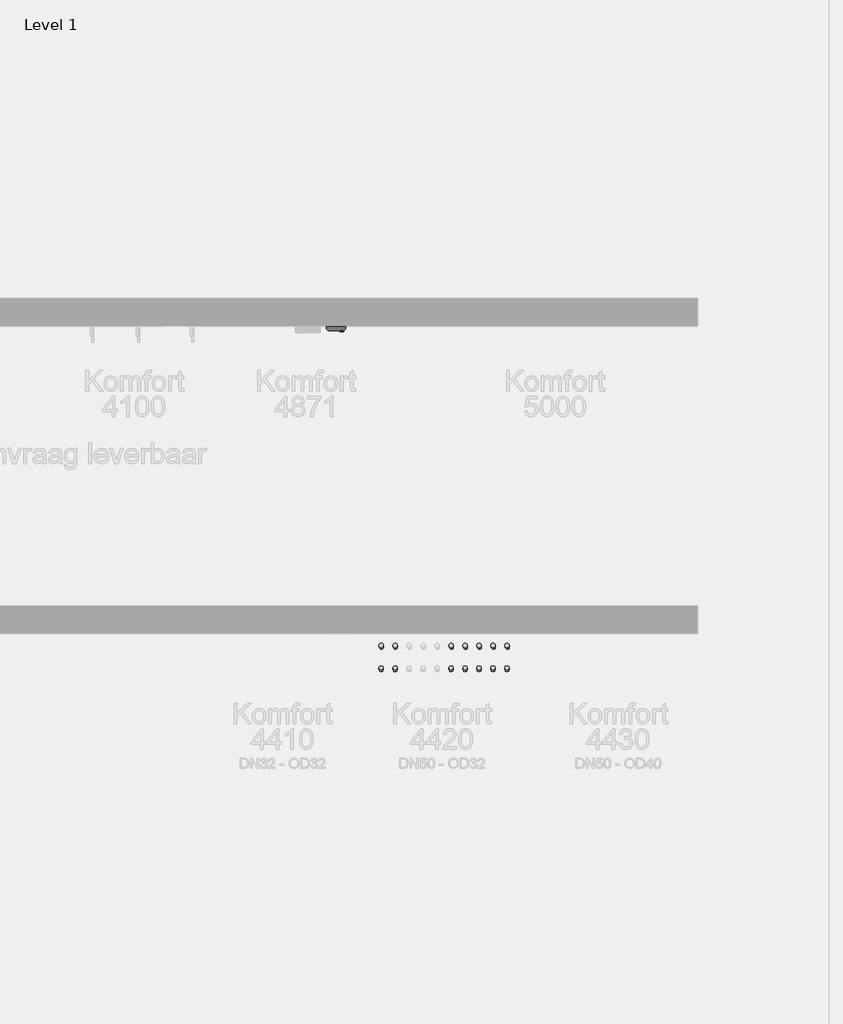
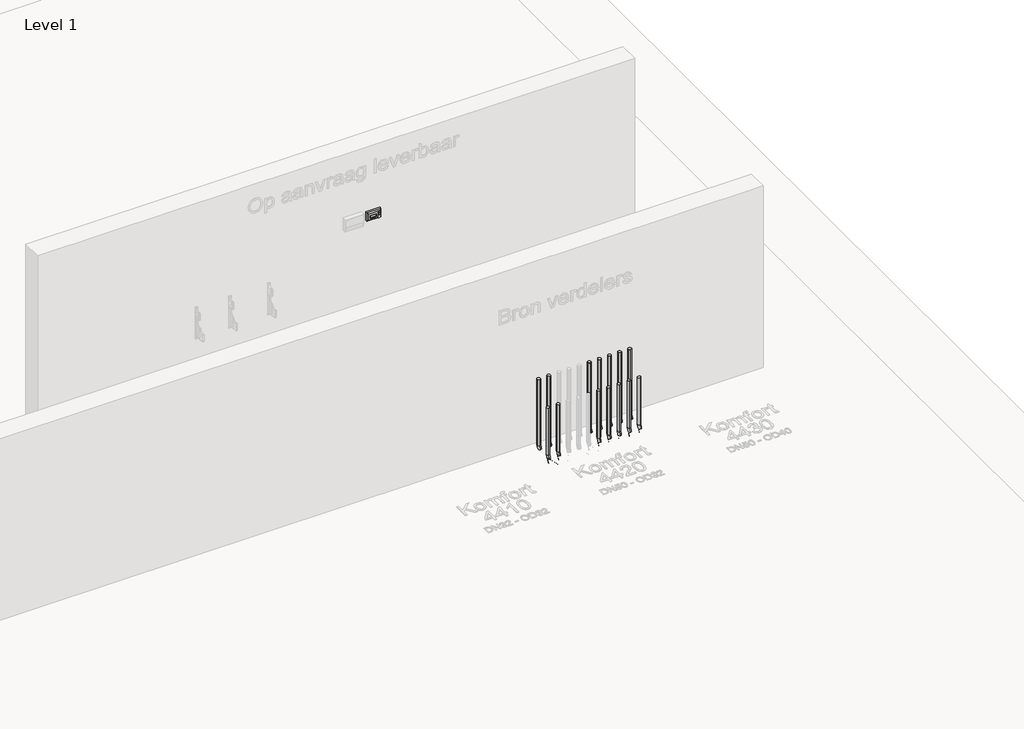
# One storey, part 9 of 34: 34 pipe segments, 21 pipe fittings, 1 proxy.
"""IFC4 building model written with IfcOpenShell, lengths in millimetres."""

from ifc_helpers import new_model, si_unit, point, frame, frame_2d, origin, place, context, project, spatial, circle_curve, trimmed, segment, composite_curve, outline, extrude, transform, mapped, element, save
from components import electrical_fixtures_cdb00edd, curved_elbow_default_c54697c8, curved_elbow_default_545ca236

model = new_model("IFC4")

# Units and contexts
model_context = context("Model", 3, world=origin())
ifc_project = project(units=[si_unit("LENGTHUNIT", "METRE", prefix="MILLI")], contexts=[model_context])

# Site, building, storey
site = spatial("IfcSite", under=ifc_project)
building = spatial("IfcBuilding", under=site)
storey = spatial("IfcBuildingStorey", under=building, Name="Level 1", Elevation=0.0)

# Proxy
placement = place(None, origin())
electrical_fixtures_shape = electrical_fixtures_cdb00edd(model_context)
element("IfcBuildingElementProxy", 1, Name="400_5-_KOMF_optimizer_bediening : Optimizer bediening", ObjectType="400_5-_KOMF_optimizer_bediening : Optimizer bediening", at=placement, inside=storey, context=model_context, shape_type="MappedRepresentation", body=[
    mapped(electrical_fixtures_shape, transform((138.4044363, 9789.9863889, 1136.6455638), x_axis=(1.0, 0.0, 0.0), y_axis=(0.0, 0.0, 1.0), z_axis=(0.0, -1.0, 0.0))),
])

# Pipe fittings
curved_elbow_default_shape = curved_elbow_default_c54697c8(model_context)
element("IfcPipeFitting", 2, ObjectType="curved_Elbow : Default", at=placement, inside=storey, context=model_context, shape_type="MappedRepresentation", body=[
    mapped(curved_elbow_default_shape, transform((1431.1365526, 7507.9863889, -60.0), x_axis=(0.0, 0.0, -1.0), y_axis=(0.2079116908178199, -0.9781476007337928, 0.0), z_axis=(-0.9781476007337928, -0.2079116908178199, 0.0))),
])
element("IfcPipeFitting", 3, ObjectType="curved_Elbow : Default", at=placement, inside=storey, context=model_context, shape_type="MappedRepresentation", body=[
    mapped(curved_elbow_default_shape, transform((1431.1365526, 7347.9863889, -60.0), x_axis=(0.0, 0.0, -1.0), y_axis=(0.0, -1.0, 0.0), z_axis=(-1.0, 0.0, 0.0))),
])
element("IfcPipeFitting", 4, ObjectType="curved_Elbow : Default", at=placement, inside=storey, context=model_context, shape_type="MappedRepresentation", body=[
    mapped(curved_elbow_default_shape, transform((1331.1365526, 7507.9863889, -60.0), x_axis=(0.0, 0.0, -1.0), y_axis=(0.20791169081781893, -0.9781476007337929, 0.0), z_axis=(-0.9781476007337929, -0.20791169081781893, 0.0))),
])
element("IfcPipeFitting", 5, ObjectType="curved_Elbow : Default", at=placement, inside=storey, context=model_context, shape_type="MappedRepresentation", body=[
    mapped(curved_elbow_default_shape, transform((1331.1365526, 7347.9863889, -60.0), x_axis=(0.0, 0.0, -1.0), y_axis=(0.0, -1.0, 0.0), z_axis=(-1.0, 0.0, 0.0))),
])
element("IfcPipeFitting", 6, ObjectType="curved_Elbow : Default", at=placement, inside=storey, context=model_context, shape_type="MappedRepresentation", body=[
    mapped(curved_elbow_default_shape, transform((1231.1365526, 7507.9863889, -60.0), x_axis=(0.0, 0.0, -1.0), y_axis=(0.20791169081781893, -0.9781476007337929, 0.0), z_axis=(-0.9781476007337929, -0.20791169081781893, 0.0))),
])
element("IfcPipeFitting", 7, ObjectType="curved_Elbow : Default", at=placement, inside=storey, context=model_context, shape_type="MappedRepresentation", body=[
    mapped(curved_elbow_default_shape, transform((1231.1365526, 7347.9863889, -60.0), x_axis=(0.0, 0.0, -1.0), y_axis=(0.0, -1.0, 0.0), z_axis=(-1.0, 0.0, 0.0))),
])
element("IfcPipeFitting", 8, ObjectType="curved_Elbow : Default", at=placement, inside=storey, context=model_context, shape_type="MappedRepresentation", body=[
    mapped(curved_elbow_default_shape, transform((1131.1365526, 7507.9863889, -60.0), x_axis=(0.0, 0.0, -1.0), y_axis=(0.207911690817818, -0.9781476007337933, 0.0), z_axis=(-0.9781476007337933, -0.207911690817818, 0.0))),
])
element("IfcPipeFitting", 9, ObjectType="curved_Elbow : Default", at=placement, inside=storey, context=model_context, shape_type="MappedRepresentation", body=[
    mapped(curved_elbow_default_shape, transform((1131.1365526, 7347.9863889, -60.0), x_axis=(0.0, 0.0, -1.0), y_axis=(0.0, -1.0, 0.0), z_axis=(-1.0, 0.0, 0.0))),
])
element("IfcPipeFitting", 10, ObjectType="curved_Elbow : Default", at=placement, inside=storey, context=model_context, shape_type="MappedRepresentation", body=[
    mapped(curved_elbow_default_shape, transform((1031.1365526, 7507.9863889, -60.0), x_axis=(0.0, 0.0, -1.0), y_axis=(0.20791169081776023, -0.9781476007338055, 0.0), z_axis=(-0.9781476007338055, -0.20791169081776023, 0.0))),
])
element("IfcPipeFitting", 11, ObjectType="curved_Elbow : Default", at=placement, inside=storey, context=model_context, shape_type="MappedRepresentation", body=[
    mapped(curved_elbow_default_shape, transform((1031.1365526, 7347.9863889, -60.0), x_axis=(0.0, 0.0, -1.0), y_axis=(0.0, -1.0, 0.0), z_axis=(-1.0, 0.0, 0.0))),
])
element("IfcPipeFitting", 12, ObjectType="curved_Elbow : Default", at=placement, inside=storey, context=model_context, shape_type="MappedRepresentation", body=[
    mapped(curved_elbow_default_shape, transform((631.1365526, 7507.9863889, -60.0), x_axis=(0.0, 0.0, -1.0), y_axis=(0.2079116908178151, -0.9781476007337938, 0.0), z_axis=(-0.9781476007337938, -0.2079116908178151, 0.0))),
])
element("IfcPipeFitting", 13, ObjectType="curved_Elbow : Default", at=placement, inside=storey, context=model_context, shape_type="MappedRepresentation", body=[
    mapped(curved_elbow_default_shape, transform((631.1365526, 7347.9863889, -60.0), x_axis=(0.0, 0.0, -1.0), y_axis=(0.0, -1.0, 0.0), z_axis=(-1.0, 0.0, 0.0))),
])
element("IfcPipeFitting", 14, ObjectType="curved_Elbow : Default", at=placement, inside=storey, context=model_context, shape_type="MappedRepresentation", body=[
    mapped(curved_elbow_default_shape, transform((531.1365526, 7507.9863889, -60.0), x_axis=(0.0, 0.0, -1.0), y_axis=(0.2079116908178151, -0.9781476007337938, 0.0), z_axis=(-0.9781476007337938, -0.2079116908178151, 0.0))),
])
element("IfcPipeFitting", 15, ObjectType="curved_Elbow : Default", at=placement, inside=storey, context=model_context, shape_type="MappedRepresentation", body=[
    mapped(curved_elbow_default_shape, transform((531.1365526, 7347.9863889, -60.0), x_axis=(0.0, 0.0, -1.0), y_axis=(0.0, -1.0, 0.0), z_axis=(-1.0, 0.0, 0.0))),
])
curved_elbow_default_2_shape = curved_elbow_default_545ca236(model_context)
element("IfcPipeFitting", 16, ObjectType="curved_Elbow : Default", at=placement, inside=storey, context=model_context, shape_type="MappedRepresentation", body=[
    mapped(curved_elbow_default_2_shape, transform((1481.1365526, 7272.7548834, -60.0), x_axis=(0.0, 1.0, 0.0), y_axis=(-1.0, 0.0, 0.0), z_axis=(0.0, 0.0, 1.0))),
])
element("IfcPipeFitting", 17, ObjectType="curved_Elbow : Default", at=placement, inside=storey, context=model_context, shape_type="MappedRepresentation", body=[
    mapped(curved_elbow_default_2_shape, transform((1381.1365526, 7272.7548834, -60.0), x_axis=(0.0, 1.0, 0.0), y_axis=(-1.0, 0.0, 0.0), z_axis=(0.0, 0.0, 1.0))),
])
element("IfcPipeFitting", 18, ObjectType="curved_Elbow : Default", at=placement, inside=storey, context=model_context, shape_type="MappedRepresentation", body=[
    mapped(curved_elbow_default_2_shape, transform((1281.1365526, 7272.7548834, -60.0), x_axis=(0.0, 1.0, 0.0), y_axis=(-1.0, 0.0, 0.0), z_axis=(0.0, 0.0, 1.0))),
])
element("IfcPipeFitting", 19, ObjectType="curved_Elbow : Default", at=placement, inside=storey, context=model_context, shape_type="MappedRepresentation", body=[
    mapped(curved_elbow_default_2_shape, transform((1181.1365526, 7272.7548834, -60.0), x_axis=(0.0, 1.0, 0.0), y_axis=(-1.0, 0.0, 0.0), z_axis=(0.0, 0.0, 1.0))),
])
element("IfcPipeFitting", 20, ObjectType="curved_Elbow : Default", at=placement, inside=storey, context=model_context, shape_type="MappedRepresentation", body=[
    mapped(curved_elbow_default_2_shape, transform((1081.1365526, 7272.7548834, -60.0), x_axis=(0.0, 1.0, 0.0), y_axis=(-1.0, 0.0, 0.0), z_axis=(0.0, 0.0, 1.0))),
])
element("IfcPipeFitting", 21, ObjectType="curved_Elbow : Default", at=placement, inside=storey, context=model_context, shape_type="MappedRepresentation", body=[
    mapped(curved_elbow_default_2_shape, transform((681.1365526, 7272.7548834, -60.0), x_axis=(0.0, 1.0, 0.0), y_axis=(-1.0, 0.0, 0.0), z_axis=(0.0, 0.0, 1.0))),
])
element("IfcPipeFitting", 22, ObjectType="curved_Elbow : Default", at=placement, inside=storey, context=model_context, shape_type="MappedRepresentation", body=[
    mapped(curved_elbow_default_2_shape, transform((581.1365526, 7272.7548834, -60.0), x_axis=(0.0, 1.0, 0.0), y_axis=(-1.0, 0.0, 0.0), z_axis=(0.0, 0.0, 1.0))),
])

# Pipe segments
element("IfcPipeSegment", 23, ObjectType="PE", at=placement, inside=storey, context=model_context, shape_type="SweptSolid", body=[
    extrude(outline(composite_curve([segment(trimmed(circle_curve(frame_2d((0.0, -16.0)), 16.0), [point((-16.0, -16.0))], [point((0.0, 0.0))], False, "CARTESIAN"), True, "CONTINUOUS"), segment(trimmed(circle_curve(frame_2d((0.0, -16.0)), 16.0), [point((0.0, 0.0))], [point((16.0, -16.0))], False, "CARTESIAN"), True, "CONTINUOUS"), segment(trimmed(circle_curve(frame_2d((0.0, -16.0)), 16.0), [point((16.0, -16.0))], [point((0.0, -32.0))], False, "CARTESIAN"), True, "CONTINUOUS"), segment(trimmed(circle_curve(frame_2d((0.0, -16.0)), 16.0), [point((0.0, -32.0))], [point((-16.0, -16.0))], False, "CARTESIAN"), True, "CONTINUOUS")], self_intersect=False)), frame((1479.0605747, 7282.5215917, -76.0), z_axis=(-0.20791169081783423, 0.9781476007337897, 0.0), x_axis=(0.9781476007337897, 0.20791169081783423, 0.0)), (0.0, 0.0, 1.0), 135.5018149),
])
element("IfcPipeSegment", 24, ObjectType="PE", at=placement, inside=storey, context=model_context, shape_type="SweptSolid", body=[
    extrude(outline(composite_curve([segment(trimmed(circle_curve(frame_2d((-60.0, 1481.1365526)), 16.0), [point((-60.0, 1497.1365526))], [point((-44.0, 1481.1365526))], False, "CARTESIAN"), True, "CONTINUOUS"), segment(trimmed(circle_curve(frame_2d((-60.0, 1481.1365526)), 16.0), [point((-44.0, 1481.1365526))], [point((-60.0, 1465.1365526))], False, "CARTESIAN"), True, "CONTINUOUS"), segment(trimmed(circle_curve(frame_2d((-60.0, 1481.1365526)), 16.0), [point((-60.0, 1465.1365526))], [point((-76.0, 1481.1365526))], False, "CARTESIAN"), True, "CONTINUOUS"), segment(trimmed(circle_curve(frame_2d((-60.0, 1481.1365526)), 16.0), [point((-76.0, 1481.1365526))], [point((-60.0, 1497.1365526))], False, "CARTESIAN"), True, "CONTINUOUS")], self_intersect=False)), frame((0.0, 7133.7372351, 0.0), z_axis=(0.0, 1.0, 0.0), x_axis=(0.0, 0.0, 1.0)), (0.0, 0.0, 1.0), 129.0327459),
])
element("IfcPipeSegment", 25, ObjectType="PE", at=placement, inside=storey, context=model_context, shape_type="SweptSolid", body=[
    extrude(outline(composite_curve([segment(trimmed(circle_curve(frame_2d((1431.1365526, 7507.9863889)), 16.0), [point((1447.1365526, 7507.9863889))], [point((1431.1365526, 7491.9863889))], False, "CARTESIAN"), True, "CONTINUOUS"), segment(trimmed(circle_curve(frame_2d((1431.1365526, 7507.9863889)), 16.0), [point((1431.1365526, 7491.9863889))], [point((1415.1365526, 7507.9863889))], False, "CARTESIAN"), True, "CONTINUOUS"), segment(trimmed(circle_curve(frame_2d((1431.1365526, 7507.9863889)), 16.0), [point((1415.1365526, 7507.9863889))], [point((1431.1365526, 7523.9863889))], False, "CARTESIAN"), True, "CONTINUOUS"), segment(trimmed(circle_curve(frame_2d((1431.1365526, 7507.9863889)), 16.0), [point((1431.1365526, 7523.9863889))], [point((1447.1365526, 7507.9863889))], False, "CARTESIAN"), True, "CONTINUOUS")], self_intersect=False)), frame((0.0, 0.0, 35.0), z_axis=(0.0, 0.0, 1.0), x_axis=(1.0, 0.0, 0.0)), (0.0, 0.0, 1.0), 691.7267081),
])
element("IfcPipeSegment", 26, ObjectType="PE", at=placement, inside=storey, context=model_context, shape_type="SweptSolid", body=[
    extrude(outline(composite_curve([segment(trimmed(circle_curve(frame_2d((-60.0, 1431.1365526)), 16.0), [point((-60.0, 1415.1365526))], [point((-76.0, 1431.1365526))], False, "CARTESIAN"), True, "CONTINUOUS"), segment(trimmed(circle_curve(frame_2d((-60.0, 1431.1365526)), 16.0), [point((-76.0, 1431.1365526))], [point((-60.0, 1447.1365526))], False, "CARTESIAN"), True, "CONTINUOUS"), segment(trimmed(circle_curve(frame_2d((-60.0, 1431.1365526)), 16.0), [point((-60.0, 1447.1365526))], [point((-44.0, 1431.1365526))], False, "CARTESIAN"), True, "CONTINUOUS"), segment(trimmed(circle_curve(frame_2d((-60.0, 1431.1365526)), 16.0), [point((-44.0, 1431.1365526))], [point((-60.0, 1415.1365526))], False, "CARTESIAN"), True, "CONTINUOUS")], self_intersect=False)), frame((0.0, 7133.7372351, 0.0), z_axis=(0.0, 1.0, 0.0), x_axis=(0.0, 0.0, 1.0)), (0.0, 0.0, 1.0), 119.2491538),
])
element("IfcPipeSegment", 27, ObjectType="PE", at=placement, inside=storey, context=model_context, shape_type="SweptSolid", body=[
    extrude(outline(composite_curve([segment(trimmed(circle_curve(frame_2d((1431.1365526, 7347.9863889)), 16.0), [point((1447.1365526, 7347.9863889))], [point((1431.1365526, 7331.9863889))], False, "CARTESIAN"), True, "CONTINUOUS"), segment(trimmed(circle_curve(frame_2d((1431.1365526, 7347.9863889)), 16.0), [point((1431.1365526, 7331.9863889))], [point((1415.1365526, 7347.9863889))], False, "CARTESIAN"), True, "CONTINUOUS"), segment(trimmed(circle_curve(frame_2d((1431.1365526, 7347.9863889)), 16.0), [point((1415.1365526, 7347.9863889))], [point((1431.1365526, 7363.9863889))], False, "CARTESIAN"), True, "CONTINUOUS"), segment(trimmed(circle_curve(frame_2d((1431.1365526, 7347.9863889)), 16.0), [point((1431.1365526, 7363.9863889))], [point((1447.1365526, 7347.9863889))], False, "CARTESIAN"), True, "CONTINUOUS")], self_intersect=False)), frame((0.0, 0.0, 35.0), z_axis=(0.0, 0.0, 1.0), x_axis=(1.0, 0.0, 0.0)), (0.0, 0.0, 1.0), 491.7981366),
])
element("IfcPipeSegment", 28, ObjectType="PE", at=placement, inside=storey, context=model_context, shape_type="SweptSolid", body=[
    extrude(outline(composite_curve([segment(trimmed(circle_curve(frame_2d((0.0, -16.0)), 16.0), [point((-16.0, -16.0))], [point((0.0, 0.0))], False, "CARTESIAN"), True, "CONTINUOUS"), segment(trimmed(circle_curve(frame_2d((0.0, -16.0)), 16.0), [point((0.0, 0.0))], [point((16.0, -16.0))], False, "CARTESIAN"), True, "CONTINUOUS"), segment(trimmed(circle_curve(frame_2d((0.0, -16.0)), 16.0), [point((16.0, -16.0))], [point((0.0, -32.0))], False, "CARTESIAN"), True, "CONTINUOUS"), segment(trimmed(circle_curve(frame_2d((0.0, -16.0)), 16.0), [point((0.0, -32.0))], [point((-16.0, -16.0))], False, "CARTESIAN"), True, "CONTINUOUS")], self_intersect=False)), frame((1379.0605747, 7282.5215917, -76.0), z_axis=(-0.20791169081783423, 0.9781476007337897, 0.0), x_axis=(0.9781476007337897, 0.20791169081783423, 0.0)), (0.0, 0.0, 1.0), 135.5018149),
])
element("IfcPipeSegment", 29, ObjectType="PE", at=placement, inside=storey, context=model_context, shape_type="SweptSolid", body=[
    extrude(outline(composite_curve([segment(trimmed(circle_curve(frame_2d((-60.0, 1381.1365526)), 16.0), [point((-60.0, 1397.1365526))], [point((-44.0, 1381.1365526))], False, "CARTESIAN"), True, "CONTINUOUS"), segment(trimmed(circle_curve(frame_2d((-60.0, 1381.1365526)), 16.0), [point((-44.0, 1381.1365526))], [point((-60.0, 1365.1365526))], False, "CARTESIAN"), True, "CONTINUOUS"), segment(trimmed(circle_curve(frame_2d((-60.0, 1381.1365526)), 16.0), [point((-60.0, 1365.1365526))], [point((-76.0, 1381.1365526))], False, "CARTESIAN"), True, "CONTINUOUS"), segment(trimmed(circle_curve(frame_2d((-60.0, 1381.1365526)), 16.0), [point((-76.0, 1381.1365526))], [point((-60.0, 1397.1365526))], False, "CARTESIAN"), True, "CONTINUOUS")], self_intersect=False)), frame((0.0, 7133.7372351, 0.0), z_axis=(0.0, 1.0, 0.0), x_axis=(0.0, 0.0, 1.0)), (0.0, 0.0, 1.0), 129.0327459),
])
element("IfcPipeSegment", 30, ObjectType="PE", at=placement, inside=storey, context=model_context, shape_type="SweptSolid", body=[
    extrude(outline(composite_curve([segment(trimmed(circle_curve(frame_2d((1331.1365526, 7507.9863889)), 16.0), [point((1347.1365526, 7507.9863889))], [point((1331.1365526, 7491.9863889))], False, "CARTESIAN"), True, "CONTINUOUS"), segment(trimmed(circle_curve(frame_2d((1331.1365526, 7507.9863889)), 16.0), [point((1331.1365526, 7491.9863889))], [point((1315.1365526, 7507.9863889))], False, "CARTESIAN"), True, "CONTINUOUS"), segment(trimmed(circle_curve(frame_2d((1331.1365526, 7507.9863889)), 16.0), [point((1315.1365526, 7507.9863889))], [point((1331.1365526, 7523.9863889))], False, "CARTESIAN"), True, "CONTINUOUS"), segment(trimmed(circle_curve(frame_2d((1331.1365526, 7507.9863889)), 16.0), [point((1331.1365526, 7523.9863889))], [point((1347.1365526, 7507.9863889))], False, "CARTESIAN"), True, "CONTINUOUS")], self_intersect=False)), frame((0.0, 0.0, 35.0), z_axis=(0.0, 0.0, 1.0), x_axis=(1.0, 0.0, 0.0)), (0.0, 0.0, 1.0), 691.7267081),
])
element("IfcPipeSegment", 31, ObjectType="PE", at=placement, inside=storey, context=model_context, shape_type="SweptSolid", body=[
    extrude(outline(composite_curve([segment(trimmed(circle_curve(frame_2d((-60.0, 1331.1365526)), 16.0), [point((-60.0, 1315.1365526))], [point((-76.0, 1331.1365526))], False, "CARTESIAN"), True, "CONTINUOUS"), segment(trimmed(circle_curve(frame_2d((-60.0, 1331.1365526)), 16.0), [point((-76.0, 1331.1365526))], [point((-60.0, 1347.1365526))], False, "CARTESIAN"), True, "CONTINUOUS"), segment(trimmed(circle_curve(frame_2d((-60.0, 1331.1365526)), 16.0), [point((-60.0, 1347.1365526))], [point((-44.0, 1331.1365526))], False, "CARTESIAN"), True, "CONTINUOUS"), segment(trimmed(circle_curve(frame_2d((-60.0, 1331.1365526)), 16.0), [point((-44.0, 1331.1365526))], [point((-60.0, 1315.1365526))], False, "CARTESIAN"), True, "CONTINUOUS")], self_intersect=False)), frame((0.0, 7133.7372351, 0.0), z_axis=(0.0, 1.0, 0.0), x_axis=(0.0, 0.0, 1.0)), (0.0, 0.0, 1.0), 119.2491538),
])
element("IfcPipeSegment", 32, ObjectType="PE", at=placement, inside=storey, context=model_context, shape_type="SweptSolid", body=[
    extrude(outline(composite_curve([segment(trimmed(circle_curve(frame_2d((1331.1365526, 7347.9863889)), 16.0), [point((1347.1365526, 7347.9863889))], [point((1331.1365526, 7331.9863889))], False, "CARTESIAN"), True, "CONTINUOUS"), segment(trimmed(circle_curve(frame_2d((1331.1365526, 7347.9863889)), 16.0), [point((1331.1365526, 7331.9863889))], [point((1315.1365526, 7347.9863889))], False, "CARTESIAN"), True, "CONTINUOUS"), segment(trimmed(circle_curve(frame_2d((1331.1365526, 7347.9863889)), 16.0), [point((1315.1365526, 7347.9863889))], [point((1331.1365526, 7363.9863889))], False, "CARTESIAN"), True, "CONTINUOUS"), segment(trimmed(circle_curve(frame_2d((1331.1365526, 7347.9863889)), 16.0), [point((1331.1365526, 7363.9863889))], [point((1347.1365526, 7347.9863889))], False, "CARTESIAN"), True, "CONTINUOUS")], self_intersect=False)), frame((0.0, 0.0, 35.0), z_axis=(0.0, 0.0, 1.0), x_axis=(1.0, 0.0, 0.0)), (0.0, 0.0, 1.0), 491.7981366),
])
element("IfcPipeSegment", 33, ObjectType="PE", at=placement, inside=storey, context=model_context, shape_type="SweptSolid", body=[
    extrude(outline(composite_curve([segment(trimmed(circle_curve(frame_2d((0.0, -16.0)), 16.0), [point((-16.0, -16.0))], [point((0.0, 0.0))], False, "CARTESIAN"), True, "CONTINUOUS"), segment(trimmed(circle_curve(frame_2d((0.0, -16.0)), 16.0), [point((0.0, 0.0))], [point((16.0, -16.0))], False, "CARTESIAN"), True, "CONTINUOUS"), segment(trimmed(circle_curve(frame_2d((0.0, -16.0)), 16.0), [point((16.0, -16.0))], [point((0.0, -32.0))], False, "CARTESIAN"), True, "CONTINUOUS"), segment(trimmed(circle_curve(frame_2d((0.0, -16.0)), 16.0), [point((0.0, -32.0))], [point((-16.0, -16.0))], False, "CARTESIAN"), True, "CONTINUOUS")], self_intersect=False)), frame((1279.0605747, 7282.5215917, -76.0), z_axis=(-0.20791169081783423, 0.9781476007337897, 0.0), x_axis=(0.9781476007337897, 0.20791169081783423, 0.0)), (0.0, 0.0, 1.0), 135.5018149),
])
element("IfcPipeSegment", 34, ObjectType="PE", at=placement, inside=storey, context=model_context, shape_type="SweptSolid", body=[
    extrude(outline(composite_curve([segment(trimmed(circle_curve(frame_2d((-60.0, 1281.1365526)), 16.0), [point((-60.0, 1297.1365526))], [point((-44.0, 1281.1365526))], False, "CARTESIAN"), True, "CONTINUOUS"), segment(trimmed(circle_curve(frame_2d((-60.0, 1281.1365526)), 16.0), [point((-44.0, 1281.1365526))], [point((-60.0, 1265.1365526))], False, "CARTESIAN"), True, "CONTINUOUS"), segment(trimmed(circle_curve(frame_2d((-60.0, 1281.1365526)), 16.0), [point((-60.0, 1265.1365526))], [point((-76.0, 1281.1365526))], False, "CARTESIAN"), True, "CONTINUOUS"), segment(trimmed(circle_curve(frame_2d((-60.0, 1281.1365526)), 16.0), [point((-76.0, 1281.1365526))], [point((-60.0, 1297.1365526))], False, "CARTESIAN"), True, "CONTINUOUS")], self_intersect=False)), frame((0.0, 7133.7372351, 0.0), z_axis=(0.0, 1.0, 0.0), x_axis=(0.0, 0.0, 1.0)), (0.0, 0.0, 1.0), 129.0327459),
])
element("IfcPipeSegment", 35, ObjectType="PE", at=placement, inside=storey, context=model_context, shape_type="SweptSolid", body=[
    extrude(outline(composite_curve([segment(trimmed(circle_curve(frame_2d((1231.1365526, 7507.9863889)), 16.0), [point((1247.1365526, 7507.9863889))], [point((1231.1365526, 7491.9863889))], False, "CARTESIAN"), True, "CONTINUOUS"), segment(trimmed(circle_curve(frame_2d((1231.1365526, 7507.9863889)), 16.0), [point((1231.1365526, 7491.9863889))], [point((1215.1365526, 7507.9863889))], False, "CARTESIAN"), True, "CONTINUOUS"), segment(trimmed(circle_curve(frame_2d((1231.1365526, 7507.9863889)), 16.0), [point((1215.1365526, 7507.9863889))], [point((1231.1365526, 7523.9863889))], False, "CARTESIAN"), True, "CONTINUOUS"), segment(trimmed(circle_curve(frame_2d((1231.1365526, 7507.9863889)), 16.0), [point((1231.1365526, 7523.9863889))], [point((1247.1365526, 7507.9863889))], False, "CARTESIAN"), True, "CONTINUOUS")], self_intersect=False)), frame((0.0, 0.0, 35.0), z_axis=(0.0, 0.0, 1.0), x_axis=(1.0, 0.0, 0.0)), (0.0, 0.0, 1.0), 691.7267081),
])
element("IfcPipeSegment", 36, ObjectType="PE", at=placement, inside=storey, context=model_context, shape_type="SweptSolid", body=[
    extrude(outline(composite_curve([segment(trimmed(circle_curve(frame_2d((-60.0, 1231.1365526)), 16.0), [point((-60.0, 1215.1365526))], [point((-76.0, 1231.1365526))], False, "CARTESIAN"), True, "CONTINUOUS"), segment(trimmed(circle_curve(frame_2d((-60.0, 1231.1365526)), 16.0), [point((-76.0, 1231.1365526))], [point((-60.0, 1247.1365526))], False, "CARTESIAN"), True, "CONTINUOUS"), segment(trimmed(circle_curve(frame_2d((-60.0, 1231.1365526)), 16.0), [point((-60.0, 1247.1365526))], [point((-44.0, 1231.1365526))], False, "CARTESIAN"), True, "CONTINUOUS"), segment(trimmed(circle_curve(frame_2d((-60.0, 1231.1365526)), 16.0), [point((-44.0, 1231.1365526))], [point((-60.0, 1215.1365526))], False, "CARTESIAN"), True, "CONTINUOUS")], self_intersect=False)), frame((0.0, 7133.7372351, 0.0), z_axis=(0.0, 1.0, 0.0), x_axis=(0.0, 0.0, 1.0)), (0.0, 0.0, 1.0), 119.2491538),
])
element("IfcPipeSegment", 37, ObjectType="PE", at=placement, inside=storey, context=model_context, shape_type="SweptSolid", body=[
    extrude(outline(composite_curve([segment(trimmed(circle_curve(frame_2d((1231.1365526, 7347.9863889)), 16.0), [point((1247.1365526, 7347.9863889))], [point((1231.1365526, 7331.9863889))], False, "CARTESIAN"), True, "CONTINUOUS"), segment(trimmed(circle_curve(frame_2d((1231.1365526, 7347.9863889)), 16.0), [point((1231.1365526, 7331.9863889))], [point((1215.1365526, 7347.9863889))], False, "CARTESIAN"), True, "CONTINUOUS"), segment(trimmed(circle_curve(frame_2d((1231.1365526, 7347.9863889)), 16.0), [point((1215.1365526, 7347.9863889))], [point((1231.1365526, 7363.9863889))], False, "CARTESIAN"), True, "CONTINUOUS"), segment(trimmed(circle_curve(frame_2d((1231.1365526, 7347.9863889)), 16.0), [point((1231.1365526, 7363.9863889))], [point((1247.1365526, 7347.9863889))], False, "CARTESIAN"), True, "CONTINUOUS")], self_intersect=False)), frame((0.0, 0.0, 35.0), z_axis=(0.0, 0.0, 1.0), x_axis=(1.0, 0.0, 0.0)), (0.0, 0.0, 1.0), 491.7981366),
])
element("IfcPipeSegment", 38, ObjectType="PE", at=placement, inside=storey, context=model_context, shape_type="SweptSolid", body=[
    extrude(outline(composite_curve([segment(trimmed(circle_curve(frame_2d((0.0, -16.0)), 16.0), [point((-16.0, -16.0))], [point((0.0, 0.0))], False, "CARTESIAN"), True, "CONTINUOUS"), segment(trimmed(circle_curve(frame_2d((0.0, -16.0)), 16.0), [point((0.0, 0.0))], [point((16.0, -16.0))], False, "CARTESIAN"), True, "CONTINUOUS"), segment(trimmed(circle_curve(frame_2d((0.0, -16.0)), 16.0), [point((16.0, -16.0))], [point((0.0, -32.0))], False, "CARTESIAN"), True, "CONTINUOUS"), segment(trimmed(circle_curve(frame_2d((0.0, -16.0)), 16.0), [point((0.0, -32.0))], [point((-16.0, -16.0))], False, "CARTESIAN"), True, "CONTINUOUS")], self_intersect=False)), frame((1179.0605747, 7282.5215917, -76.0), z_axis=(-0.20791169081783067, 0.9781476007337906, 0.0), x_axis=(0.9781476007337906, 0.20791169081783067, 0.0)), (0.0, 0.0, 1.0), 135.5018149),
])
element("IfcPipeSegment", 39, ObjectType="PE", at=placement, inside=storey, context=model_context, shape_type="SweptSolid", body=[
    extrude(outline(composite_curve([segment(trimmed(circle_curve(frame_2d((-60.0, 1181.1365526)), 16.0), [point((-60.0, 1197.1365526))], [point((-44.0, 1181.1365526))], False, "CARTESIAN"), True, "CONTINUOUS"), segment(trimmed(circle_curve(frame_2d((-60.0, 1181.1365526)), 16.0), [point((-44.0, 1181.1365526))], [point((-60.0, 1165.1365526))], False, "CARTESIAN"), True, "CONTINUOUS"), segment(trimmed(circle_curve(frame_2d((-60.0, 1181.1365526)), 16.0), [point((-60.0, 1165.1365526))], [point((-76.0, 1181.1365526))], False, "CARTESIAN"), True, "CONTINUOUS"), segment(trimmed(circle_curve(frame_2d((-60.0, 1181.1365526)), 16.0), [point((-76.0, 1181.1365526))], [point((-60.0, 1197.1365526))], False, "CARTESIAN"), True, "CONTINUOUS")], self_intersect=False)), frame((0.0, 7133.7372351, 0.0), z_axis=(0.0, 1.0, 0.0), x_axis=(0.0, 0.0, 1.0)), (0.0, 0.0, 1.0), 129.0327459),
])
element("IfcPipeSegment", 40, ObjectType="PE", at=placement, inside=storey, context=model_context, shape_type="SweptSolid", body=[
    extrude(outline(composite_curve([segment(trimmed(circle_curve(frame_2d((1131.1365526, 7507.9863889)), 16.0), [point((1147.1365526, 7507.9863889))], [point((1131.1365526, 7491.9863889))], False, "CARTESIAN"), True, "CONTINUOUS"), segment(trimmed(circle_curve(frame_2d((1131.1365526, 7507.9863889)), 16.0), [point((1131.1365526, 7491.9863889))], [point((1115.1365526, 7507.9863889))], False, "CARTESIAN"), True, "CONTINUOUS"), segment(trimmed(circle_curve(frame_2d((1131.1365526, 7507.9863889)), 16.0), [point((1115.1365526, 7507.9863889))], [point((1131.1365526, 7523.9863889))], False, "CARTESIAN"), True, "CONTINUOUS"), segment(trimmed(circle_curve(frame_2d((1131.1365526, 7507.9863889)), 16.0), [point((1131.1365526, 7523.9863889))], [point((1147.1365526, 7507.9863889))], False, "CARTESIAN"), True, "CONTINUOUS")], self_intersect=False)), frame((0.0, 0.0, 35.0), z_axis=(0.0, 0.0, 1.0), x_axis=(1.0, 0.0, 0.0)), (0.0, 0.0, 1.0), 691.7267081),
])
element("IfcPipeSegment", 41, ObjectType="PE", at=placement, inside=storey, context=model_context, shape_type="SweptSolid", body=[
    extrude(outline(composite_curve([segment(trimmed(circle_curve(frame_2d((-60.0, 1131.1365526)), 16.0), [point((-60.0, 1115.1365526))], [point((-76.0, 1131.1365526))], False, "CARTESIAN"), True, "CONTINUOUS"), segment(trimmed(circle_curve(frame_2d((-60.0, 1131.1365526)), 16.0), [point((-76.0, 1131.1365526))], [point((-60.0, 1147.1365526))], False, "CARTESIAN"), True, "CONTINUOUS"), segment(trimmed(circle_curve(frame_2d((-60.0, 1131.1365526)), 16.0), [point((-60.0, 1147.1365526))], [point((-44.0, 1131.1365526))], False, "CARTESIAN"), True, "CONTINUOUS"), segment(trimmed(circle_curve(frame_2d((-60.0, 1131.1365526)), 16.0), [point((-44.0, 1131.1365526))], [point((-60.0, 1115.1365526))], False, "CARTESIAN"), True, "CONTINUOUS")], self_intersect=False)), frame((0.0, 7133.7372351, 0.0), z_axis=(0.0, 1.0, 0.0), x_axis=(0.0, 0.0, 1.0)), (0.0, 0.0, 1.0), 119.2491538),
])
element("IfcPipeSegment", 42, ObjectType="PE", at=placement, inside=storey, context=model_context, shape_type="SweptSolid", body=[
    extrude(outline(composite_curve([segment(trimmed(circle_curve(frame_2d((1131.1365526, 7347.9863889)), 16.0), [point((1147.1365526, 7347.9863889))], [point((1131.1365526, 7331.9863889))], False, "CARTESIAN"), True, "CONTINUOUS"), segment(trimmed(circle_curve(frame_2d((1131.1365526, 7347.9863889)), 16.0), [point((1131.1365526, 7331.9863889))], [point((1115.1365526, 7347.9863889))], False, "CARTESIAN"), True, "CONTINUOUS"), segment(trimmed(circle_curve(frame_2d((1131.1365526, 7347.9863889)), 16.0), [point((1115.1365526, 7347.9863889))], [point((1131.1365526, 7363.9863889))], False, "CARTESIAN"), True, "CONTINUOUS"), segment(trimmed(circle_curve(frame_2d((1131.1365526, 7347.9863889)), 16.0), [point((1131.1365526, 7363.9863889))], [point((1147.1365526, 7347.9863889))], False, "CARTESIAN"), True, "CONTINUOUS")], self_intersect=False)), frame((0.0, 0.0, 35.0), z_axis=(0.0, 0.0, 1.0), x_axis=(1.0, 0.0, 0.0)), (0.0, 0.0, 1.0), 491.7981366),
])
element("IfcPipeSegment", 43, ObjectType="PE", at=placement, inside=storey, context=model_context, shape_type="SweptSolid", body=[
    extrude(outline(composite_curve([segment(trimmed(circle_curve(frame_2d((0.0, -16.0)), 16.0), [point((-16.0, -16.0))], [point((0.0, 0.0))], False, "CARTESIAN"), True, "CONTINUOUS"), segment(trimmed(circle_curve(frame_2d((0.0, -16.0)), 16.0), [point((0.0, 0.0))], [point((16.0, -16.0))], False, "CARTESIAN"), True, "CONTINUOUS"), segment(trimmed(circle_curve(frame_2d((0.0, -16.0)), 16.0), [point((16.0, -16.0))], [point((0.0, -32.0))], False, "CARTESIAN"), True, "CONTINUOUS"), segment(trimmed(circle_curve(frame_2d((0.0, -16.0)), 16.0), [point((0.0, -32.0))], [point((-16.0, -16.0))], False, "CARTESIAN"), True, "CONTINUOUS")], self_intersect=False)), frame((1079.0605747, 7282.5215917, -76.0), z_axis=(-0.20791169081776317, 0.9781476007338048, 0.0), x_axis=(0.9781476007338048, 0.20791169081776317, 0.0)), (0.0, 0.0, 1.0), 135.5018149),
])
element("IfcPipeSegment", 44, ObjectType="PE", at=placement, inside=storey, context=model_context, shape_type="SweptSolid", body=[
    extrude(outline(composite_curve([segment(trimmed(circle_curve(frame_2d((-60.0, 1081.1365526)), 16.0), [point((-60.0, 1097.1365526))], [point((-44.0, 1081.1365526))], False, "CARTESIAN"), True, "CONTINUOUS"), segment(trimmed(circle_curve(frame_2d((-60.0, 1081.1365526)), 16.0), [point((-44.0, 1081.1365526))], [point((-60.0, 1065.1365526))], False, "CARTESIAN"), True, "CONTINUOUS"), segment(trimmed(circle_curve(frame_2d((-60.0, 1081.1365526)), 16.0), [point((-60.0, 1065.1365526))], [point((-76.0, 1081.1365526))], False, "CARTESIAN"), True, "CONTINUOUS"), segment(trimmed(circle_curve(frame_2d((-60.0, 1081.1365526)), 16.0), [point((-76.0, 1081.1365526))], [point((-60.0, 1097.1365526))], False, "CARTESIAN"), True, "CONTINUOUS")], self_intersect=False)), frame((0.0, 7133.7372351, 0.0), z_axis=(0.0, 1.0, 0.0), x_axis=(0.0, 0.0, 1.0)), (0.0, 0.0, 1.0), 129.0327459),
])
element("IfcPipeSegment", 45, ObjectType="PE", at=placement, inside=storey, context=model_context, shape_type="SweptSolid", body=[
    extrude(outline(composite_curve([segment(trimmed(circle_curve(frame_2d((1031.1365526, 7507.9863889)), 16.0), [point((1047.1365526, 7507.9863889))], [point((1031.1365526, 7491.9863889))], False, "CARTESIAN"), True, "CONTINUOUS"), segment(trimmed(circle_curve(frame_2d((1031.1365526, 7507.9863889)), 16.0), [point((1031.1365526, 7491.9863889))], [point((1015.1365526, 7507.9863889))], False, "CARTESIAN"), True, "CONTINUOUS"), segment(trimmed(circle_curve(frame_2d((1031.1365526, 7507.9863889)), 16.0), [point((1015.1365526, 7507.9863889))], [point((1031.1365526, 7523.9863889))], False, "CARTESIAN"), True, "CONTINUOUS"), segment(trimmed(circle_curve(frame_2d((1031.1365526, 7507.9863889)), 16.0), [point((1031.1365526, 7523.9863889))], [point((1047.1365526, 7507.9863889))], False, "CARTESIAN"), True, "CONTINUOUS")], self_intersect=False)), frame((0.0, 0.0, 35.0), z_axis=(0.0, 0.0, 1.0), x_axis=(1.0, 0.0, 0.0)), (0.0, 0.0, 1.0), 691.7267081),
])
element("IfcPipeSegment", 46, ObjectType="PE", at=placement, inside=storey, context=model_context, shape_type="SweptSolid", body=[
    extrude(outline(composite_curve([segment(trimmed(circle_curve(frame_2d((-60.0, 1031.1365526)), 16.0), [point((-60.0, 1015.1365526))], [point((-76.0, 1031.1365526))], False, "CARTESIAN"), True, "CONTINUOUS"), segment(trimmed(circle_curve(frame_2d((-60.0, 1031.1365526)), 16.0), [point((-76.0, 1031.1365526))], [point((-60.0, 1047.1365526))], False, "CARTESIAN"), True, "CONTINUOUS"), segment(trimmed(circle_curve(frame_2d((-60.0, 1031.1365526)), 16.0), [point((-60.0, 1047.1365526))], [point((-44.0, 1031.1365526))], False, "CARTESIAN"), True, "CONTINUOUS"), segment(trimmed(circle_curve(frame_2d((-60.0, 1031.1365526)), 16.0), [point((-44.0, 1031.1365526))], [point((-60.0, 1015.1365526))], False, "CARTESIAN"), True, "CONTINUOUS")], self_intersect=False)), frame((0.0, 7133.7372351, 0.0), z_axis=(0.0, 1.0, 0.0), x_axis=(0.0, 0.0, 1.0)), (0.0, 0.0, 1.0), 119.2491538),
])
element("IfcPipeSegment", 47, ObjectType="PE", at=placement, inside=storey, context=model_context, shape_type="SweptSolid", body=[
    extrude(outline(composite_curve([segment(trimmed(circle_curve(frame_2d((1031.1365526, 7347.9863889)), 16.0), [point((1047.1365526, 7347.9863889))], [point((1031.1365526, 7331.9863889))], False, "CARTESIAN"), True, "CONTINUOUS"), segment(trimmed(circle_curve(frame_2d((1031.1365526, 7347.9863889)), 16.0), [point((1031.1365526, 7331.9863889))], [point((1015.1365526, 7347.9863889))], False, "CARTESIAN"), True, "CONTINUOUS"), segment(trimmed(circle_curve(frame_2d((1031.1365526, 7347.9863889)), 16.0), [point((1015.1365526, 7347.9863889))], [point((1031.1365526, 7363.9863889))], False, "CARTESIAN"), True, "CONTINUOUS"), segment(trimmed(circle_curve(frame_2d((1031.1365526, 7347.9863889)), 16.0), [point((1031.1365526, 7363.9863889))], [point((1047.1365526, 7347.9863889))], False, "CARTESIAN"), True, "CONTINUOUS")], self_intersect=False)), frame((0.0, 0.0, 35.0), z_axis=(0.0, 0.0, 1.0), x_axis=(1.0, 0.0, 0.0)), (0.0, 0.0, 1.0), 491.7981366),
])
element("IfcPipeSegment", 48, ObjectType="PE", at=placement, inside=storey, context=model_context, shape_type="SweptSolid", body=[
    extrude(outline(composite_curve([segment(trimmed(circle_curve(frame_2d((-60.0, 681.1365526)), 16.0), [point((-60.0, 697.1365526))], [point((-44.0, 681.1365526))], False, "CARTESIAN"), True, "CONTINUOUS"), segment(trimmed(circle_curve(frame_2d((-60.0, 681.1365526)), 16.0), [point((-44.0, 681.1365526))], [point((-60.0, 665.1365526))], False, "CARTESIAN"), True, "CONTINUOUS"), segment(trimmed(circle_curve(frame_2d((-60.0, 681.1365526)), 16.0), [point((-60.0, 665.1365526))], [point((-76.0, 681.1365526))], False, "CARTESIAN"), True, "CONTINUOUS"), segment(trimmed(circle_curve(frame_2d((-60.0, 681.1365526)), 16.0), [point((-76.0, 681.1365526))], [point((-60.0, 697.1365526))], False, "CARTESIAN"), True, "CONTINUOUS")], self_intersect=False)), frame((0.0, 7133.7372351, 0.0), z_axis=(0.0, 1.0, 0.0), x_axis=(0.0, 0.0, 1.0)), (0.0, 0.0, 1.0), 129.0327459),
])
element("IfcPipeSegment", 49, ObjectType="PE", at=placement, inside=storey, context=model_context, shape_type="SweptSolid", body=[
    extrude(outline(composite_curve([segment(trimmed(circle_curve(frame_2d((631.1365526, 7507.9863889)), 16.0), [point((647.1365526, 7507.9863889))], [point((631.1365526, 7491.9863889))], False, "CARTESIAN"), True, "CONTINUOUS"), segment(trimmed(circle_curve(frame_2d((631.1365526, 7507.9863889)), 16.0), [point((631.1365526, 7491.9863889))], [point((615.1365526, 7507.9863889))], False, "CARTESIAN"), True, "CONTINUOUS"), segment(trimmed(circle_curve(frame_2d((631.1365526, 7507.9863889)), 16.0), [point((615.1365526, 7507.9863889))], [point((631.1365526, 7523.9863889))], False, "CARTESIAN"), True, "CONTINUOUS"), segment(trimmed(circle_curve(frame_2d((631.1365526, 7507.9863889)), 16.0), [point((631.1365526, 7523.9863889))], [point((647.1365526, 7507.9863889))], False, "CARTESIAN"), True, "CONTINUOUS")], self_intersect=False)), frame((0.0, 0.0, 35.0), z_axis=(0.0, 0.0, 1.0), x_axis=(1.0, 0.0, 0.0)), (0.0, 0.0, 1.0), 691.7267081),
])
element("IfcPipeSegment", 50, ObjectType="PE", at=placement, inside=storey, context=model_context, shape_type="SweptSolid", body=[
    extrude(outline(composite_curve([segment(trimmed(circle_curve(frame_2d((-60.0, 631.1365526)), 16.0), [point((-60.0, 615.1365526))], [point((-76.0, 631.1365526))], False, "CARTESIAN"), True, "CONTINUOUS"), segment(trimmed(circle_curve(frame_2d((-60.0, 631.1365526)), 16.0), [point((-76.0, 631.1365526))], [point((-60.0, 647.1365526))], False, "CARTESIAN"), True, "CONTINUOUS"), segment(trimmed(circle_curve(frame_2d((-60.0, 631.1365526)), 16.0), [point((-60.0, 647.1365526))], [point((-44.0, 631.1365526))], False, "CARTESIAN"), True, "CONTINUOUS"), segment(trimmed(circle_curve(frame_2d((-60.0, 631.1365526)), 16.0), [point((-44.0, 631.1365526))], [point((-60.0, 615.1365526))], False, "CARTESIAN"), True, "CONTINUOUS")], self_intersect=False)), frame((0.0, 7133.7372351, 0.0), z_axis=(0.0, 1.0, 0.0), x_axis=(0.0, 0.0, 1.0)), (0.0, 0.0, 1.0), 119.2491538),
])
element("IfcPipeSegment", 51, ObjectType="PE", at=placement, inside=storey, context=model_context, shape_type="SweptSolid", body=[
    extrude(outline(composite_curve([segment(trimmed(circle_curve(frame_2d((631.1365526, 7347.9863889)), 16.0), [point((647.1365526, 7347.9863889))], [point((631.1365526, 7331.9863889))], False, "CARTESIAN"), True, "CONTINUOUS"), segment(trimmed(circle_curve(frame_2d((631.1365526, 7347.9863889)), 16.0), [point((631.1365526, 7331.9863889))], [point((615.1365526, 7347.9863889))], False, "CARTESIAN"), True, "CONTINUOUS"), segment(trimmed(circle_curve(frame_2d((631.1365526, 7347.9863889)), 16.0), [point((615.1365526, 7347.9863889))], [point((631.1365526, 7363.9863889))], False, "CARTESIAN"), True, "CONTINUOUS"), segment(trimmed(circle_curve(frame_2d((631.1365526, 7347.9863889)), 16.0), [point((631.1365526, 7363.9863889))], [point((647.1365526, 7347.9863889))], False, "CARTESIAN"), True, "CONTINUOUS")], self_intersect=False)), frame((0.0, 0.0, 35.0), z_axis=(0.0, 0.0, 1.0), x_axis=(1.0, 0.0, 0.0)), (0.0, 0.0, 1.0), 491.7981366),
])
element("IfcPipeSegment", 52, ObjectType="PE", at=placement, inside=storey, context=model_context, shape_type="SweptSolid", body=[
    extrude(outline(composite_curve([segment(trimmed(circle_curve(frame_2d((0.0, -16.0)), 16.0), [point((-16.0, -16.0))], [point((0.0, 0.0))], False, "CARTESIAN"), True, "CONTINUOUS"), segment(trimmed(circle_curve(frame_2d((0.0, -16.0)), 16.0), [point((0.0, 0.0))], [point((16.0, -16.0))], False, "CARTESIAN"), True, "CONTINUOUS"), segment(trimmed(circle_curve(frame_2d((0.0, -16.0)), 16.0), [point((16.0, -16.0))], [point((0.0, -32.0))], False, "CARTESIAN"), True, "CONTINUOUS"), segment(trimmed(circle_curve(frame_2d((0.0, -16.0)), 16.0), [point((0.0, -32.0))], [point((-16.0, -16.0))], False, "CARTESIAN"), True, "CONTINUOUS")], self_intersect=False)), frame((579.0605747, 7282.5215917, -76.0), z_axis=(-0.20791169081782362, 0.978147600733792, 0.0), x_axis=(0.978147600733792, 0.20791169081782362, 0.0)), (0.0, 0.0, 1.0), 135.5018149),
])
element("IfcPipeSegment", 53, ObjectType="PE", at=placement, inside=storey, context=model_context, shape_type="SweptSolid", body=[
    extrude(outline(composite_curve([segment(trimmed(circle_curve(frame_2d((-60.0, 581.1365526)), 16.0), [point((-60.0, 597.1365526))], [point((-44.0, 581.1365526))], False, "CARTESIAN"), True, "CONTINUOUS"), segment(trimmed(circle_curve(frame_2d((-60.0, 581.1365526)), 16.0), [point((-44.0, 581.1365526))], [point((-60.0, 565.1365526))], False, "CARTESIAN"), True, "CONTINUOUS"), segment(trimmed(circle_curve(frame_2d((-60.0, 581.1365526)), 16.0), [point((-60.0, 565.1365526))], [point((-76.0, 581.1365526))], False, "CARTESIAN"), True, "CONTINUOUS"), segment(trimmed(circle_curve(frame_2d((-60.0, 581.1365526)), 16.0), [point((-76.0, 581.1365526))], [point((-60.0, 597.1365526))], False, "CARTESIAN"), True, "CONTINUOUS")], self_intersect=False)), frame((0.0, 7133.7372351, 0.0), z_axis=(0.0, 1.0, 0.0), x_axis=(0.0, 0.0, 1.0)), (0.0, 0.0, 1.0), 129.0327459),
])
element("IfcPipeSegment", 54, ObjectType="PE", at=placement, inside=storey, context=model_context, shape_type="SweptSolid", body=[
    extrude(outline(composite_curve([segment(trimmed(circle_curve(frame_2d((531.1365526, 7507.9863889)), 16.0), [point((547.1365526, 7507.9863889))], [point((531.1365526, 7491.9863889))], False, "CARTESIAN"), True, "CONTINUOUS"), segment(trimmed(circle_curve(frame_2d((531.1365526, 7507.9863889)), 16.0), [point((531.1365526, 7491.9863889))], [point((515.1365526, 7507.9863889))], False, "CARTESIAN"), True, "CONTINUOUS"), segment(trimmed(circle_curve(frame_2d((531.1365526, 7507.9863889)), 16.0), [point((515.1365526, 7507.9863889))], [point((531.1365526, 7523.9863889))], False, "CARTESIAN"), True, "CONTINUOUS"), segment(trimmed(circle_curve(frame_2d((531.1365526, 7507.9863889)), 16.0), [point((531.1365526, 7523.9863889))], [point((547.1365526, 7507.9863889))], False, "CARTESIAN"), True, "CONTINUOUS")], self_intersect=False)), frame((0.0, 0.0, 35.0), z_axis=(0.0, 0.0, 1.0), x_axis=(1.0, 0.0, 0.0)), (0.0, 0.0, 1.0), 691.7267081),
])
element("IfcPipeSegment", 55, ObjectType="PE", at=placement, inside=storey, context=model_context, shape_type="SweptSolid", body=[
    extrude(outline(composite_curve([segment(trimmed(circle_curve(frame_2d((-60.0, 531.1365526)), 16.0), [point((-60.0, 515.1365526))], [point((-76.0, 531.1365526))], False, "CARTESIAN"), True, "CONTINUOUS"), segment(trimmed(circle_curve(frame_2d((-60.0, 531.1365526)), 16.0), [point((-76.0, 531.1365526))], [point((-60.0, 547.1365526))], False, "CARTESIAN"), True, "CONTINUOUS"), segment(trimmed(circle_curve(frame_2d((-60.0, 531.1365526)), 16.0), [point((-60.0, 547.1365526))], [point((-44.0, 531.1365526))], False, "CARTESIAN"), True, "CONTINUOUS"), segment(trimmed(circle_curve(frame_2d((-60.0, 531.1365526)), 16.0), [point((-44.0, 531.1365526))], [point((-60.0, 515.1365526))], False, "CARTESIAN"), True, "CONTINUOUS")], self_intersect=False)), frame((0.0, 7133.7372351, 0.0), z_axis=(0.0, 1.0, 0.0), x_axis=(0.0, 0.0, 1.0)), (0.0, 0.0, 1.0), 119.2491538),
])
element("IfcPipeSegment", 56, ObjectType="PE", at=placement, inside=storey, context=model_context, shape_type="SweptSolid", body=[
    extrude(outline(composite_curve([segment(trimmed(circle_curve(frame_2d((531.1365526, 7347.9863889)), 16.0), [point((547.1365526, 7347.9863889))], [point((531.1365526, 7331.9863889))], False, "CARTESIAN"), True, "CONTINUOUS"), segment(trimmed(circle_curve(frame_2d((531.1365526, 7347.9863889)), 16.0), [point((531.1365526, 7331.9863889))], [point((515.1365526, 7347.9863889))], False, "CARTESIAN"), True, "CONTINUOUS"), segment(trimmed(circle_curve(frame_2d((531.1365526, 7347.9863889)), 16.0), [point((515.1365526, 7347.9863889))], [point((531.1365526, 7363.9863889))], False, "CARTESIAN"), True, "CONTINUOUS"), segment(trimmed(circle_curve(frame_2d((531.1365526, 7347.9863889)), 16.0), [point((531.1365526, 7363.9863889))], [point((547.1365526, 7347.9863889))], False, "CARTESIAN"), True, "CONTINUOUS")], self_intersect=False)), frame((0.0, 0.0, 35.0), z_axis=(0.0, 0.0, 1.0), x_axis=(1.0, 0.0, 0.0)), (0.0, 0.0, 1.0), 491.7981366),
])

save(model, "model.ifc")
